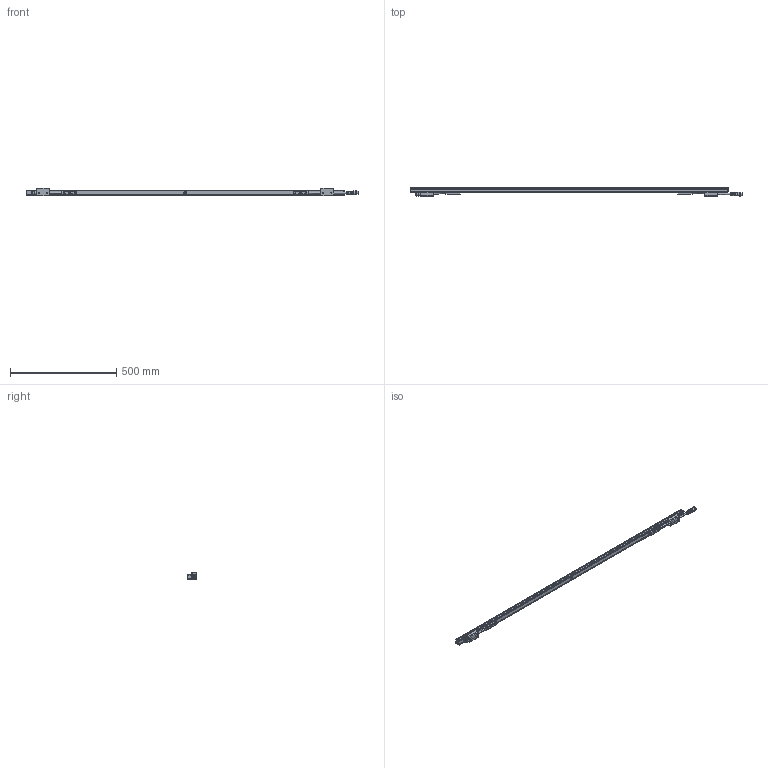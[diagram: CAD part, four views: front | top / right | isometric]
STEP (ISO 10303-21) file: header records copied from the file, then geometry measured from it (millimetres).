
FILE_DESCRIPTION (( 'STEP AP214' ), '1' );
FILE_NAME ('DiGi Linear D-Series 2 L1500.STEP', '2025-11-24T13:52:19', ( '' ), ( '' ), 'SwSTEP 2.0', 'SolidWorks 2025', '' );
FILE_SCHEMA (( 'AUTOMOTIVE_DESIGN' ));
Length unit declared in the file: millimetre
Products named in the file (12): Counter sunk screw torx_M2.5x16; D series 2 clip top; Counter sunk screw torx_M3x16; Part2^DiGi Linear D-Series 2; D series 2 clip bottom; DiGi Linear D-Series 2 L1500; D & E Series 2 breathing valve; Counter sunk screw torx_M2x6; M16 5p Female; Part1^DiGi Linear D-Series 2; M16 5p Male; D series 2 body_1500
Assembly tree (30 placements, depth 2):
  DiGi Linear D-Series 2 L1500
    D series 2 body_1500
    D series 2 clip bottom  x2
    D series 2 clip top  x2
    Counter sunk screw torx_M3x16  x4
    Counter sunk screw torx_M2.5x16  x8
    Counter sunk screw torx_M2x6  x8
    M16 5p Female
    Part1^DiGi Linear D-Series 2
    M16 5p Male
    Part2^DiGi Linear D-Series 2
    D & E Series 2 breathing valve
Bounding box: 1565.31 x 42.09 x 35.5 mm (x, y, z)
Volume: 762474.3 mm3; surface area: 266912.2 mm2
Topology: 35 solids, 38 shells, 2666 faces, 6740 edges, 4351 vertices
Faces by surface type: plane 1252, cylinder 1009, cone 134, bspline 130, torus 127, sphere 14
Full cylindrical faces by diameter (mm): 1.8 x4, 2 x8, 2.5 x8, 3 x12, 4.5 x8, 5.81 x4, 9.2 x1, 11.1 x1, 14.25 x1, 14.3 x1, 18 x1
Entity records: 87297 total; most frequent: CARTESIAN_POINT 24727, ORIENTED_EDGE 11332, DIRECTION 10875, EDGE_CURVE 5666, AXIS2_PLACEMENT_3D 3840, VERTEX_POINT 3678, VECTOR 3195, LINE 3195
